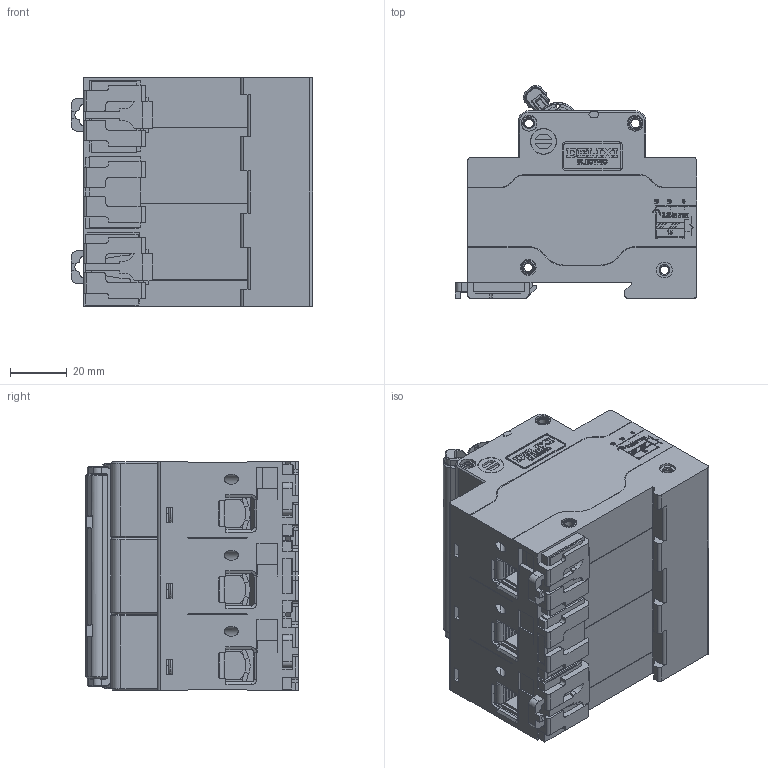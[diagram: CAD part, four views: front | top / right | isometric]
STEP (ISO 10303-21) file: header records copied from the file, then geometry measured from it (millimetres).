
FILE_DESCRIPTION((''),'2;1');
FILE_NAME('2256021100_ASM_SW0001','2019-07-17T',('xiao.wang'),(''),'PRO/ENGINEER BY PARAMETRIC TECHNOLOGY CORPORATION, 2015440','PRO/ENGINEER BY PARAMETRIC TECHNOLOGY CORPORATION, 2015440','');
FILE_SCHEMA(('CONFIG_CONTROL_DESIGN'));
Products named in the file (1): 2256021100_ASM_SW0001
Bounding box: 84.9 x 74.91 x 80.4 mm (x, y, z)
Volume: 314236.4 mm3; surface area: 109640.3 mm2
Topology: 1 solids, 3 shells, 5303 faces, 15116 edges, 9827 vertices
Faces by surface type: plane 3784, cylinder 905, extrusion 354, cone 110, torus 88, bspline 44, sphere 18
Entity records: 176794 total; most frequent: CARTESIAN_POINT 38588, ORIENTED_EDGE 30196, DIRECTION 26598, EDGE_CURVE 15098, VECTOR 12036, LINE 11682, VERTEX_POINT 9827, AXIS2_PLACEMENT_3D 7281
